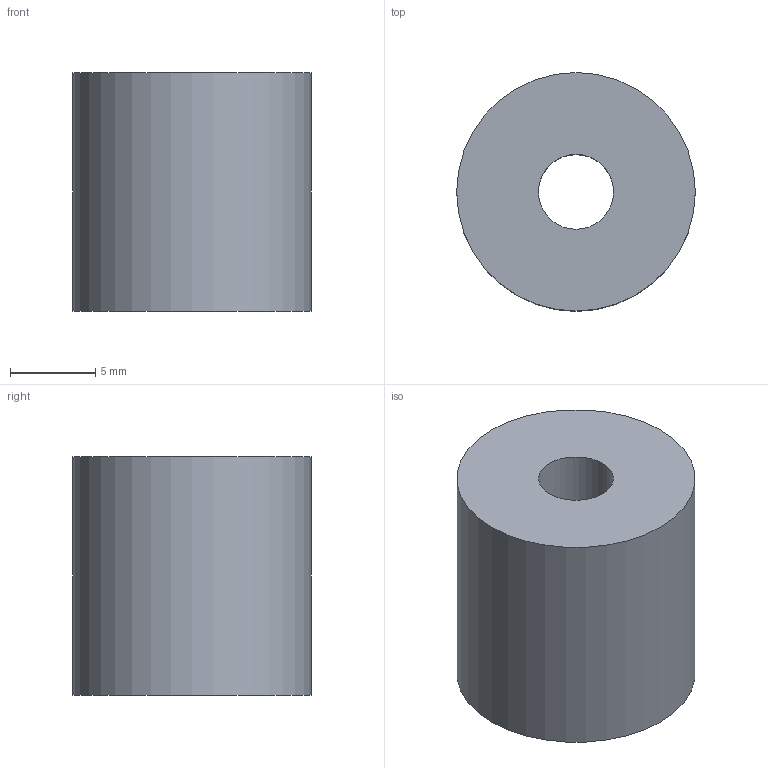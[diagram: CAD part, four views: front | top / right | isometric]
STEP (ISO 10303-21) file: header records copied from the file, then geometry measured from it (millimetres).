
FILE_DESCRIPTION(('Open CASCADE Model'),'2;1');
FILE_NAME('Open CASCADE Shape Model','2026-10-02T16:08:57',('Author'),( 'Open CASCADE'),'Open CASCADE STEP processor 7.8','Open CASCADE 7.8' ,'Unknown');
FILE_SCHEMA(('AUTOMOTIVE_DESIGN { 1 0 10303 214 1 1 1 1 }'));
Length unit declared in the file: millimetre
Products named in the file (1): Open CASCADE STEP translator 7.8 8
Bounding box: 14 x 14 x 14 mm (x, y, z)
Volume: 1942.3 mm3; surface area: 1086.7 mm2
Topology: 1 solids, 1 shells, 4 faces, 6 edges, 4 vertices
Faces by surface type: cylinder 2, plane 2
Full cylindrical faces by diameter (mm): 4.4 x1, 14 x1
Entity records: 186 total; most frequent: DIRECTION 32, CARTESIAN_POINT 27, ORIENTED_EDGE 12, PCURVE 12, DEFINITIONAL_REPRESENTATION 12, LINE 10, VECTOR 10, AXIS2_PLACEMENT_3D 9
